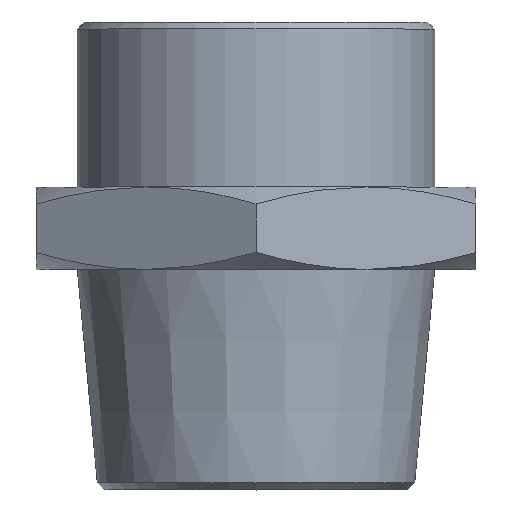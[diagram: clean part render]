
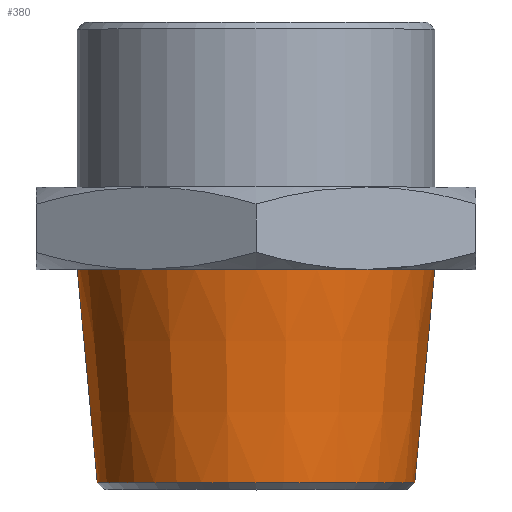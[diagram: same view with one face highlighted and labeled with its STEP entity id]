
A CAD part, top view. The second image highlights one B-rep face of the part: STEP entity #380.
In plain terms, the highlighted conical face has half-angle 5.356 degrees and reference radius 12.25 mm.
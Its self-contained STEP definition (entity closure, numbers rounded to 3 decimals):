
#54=CONICAL_SURFACE('',#435,12.25,0.093);
#71=FACE_OUTER_BOUND('',#99,.T.);
#99=EDGE_LOOP('',(#272,#273,#274,#275,#276));
#128=LINE('',#606,#139);
#139=VECTOR('',#500,12.25);
#150=CIRCLE('',#431,11.547);
#151=CIRCLE('',#432,11.547);
#153=CIRCLE('',#436,13.);
#172=VERTEX_POINT('',#595);
#173=VERTEX_POINT('',#596);
#175=VERTEX_POINT('',#604);
#207=EDGE_CURVE('',#172,#173,#150,.T.);
#208=EDGE_CURVE('',#173,#172,#151,.T.);
#211=EDGE_CURVE('',#175,#175,#153,.T.);
#212=EDGE_CURVE('',#175,#173,#128,.T.);
#272=ORIENTED_EDGE('',*,*,#211,.F.);
#273=ORIENTED_EDGE('',*,*,#212,.T.);
#274=ORIENTED_EDGE('',*,*,#207,.F.);
#275=ORIENTED_EDGE('',*,*,#208,.F.);
#276=ORIENTED_EDGE('',*,*,#212,.F.);
#380=ADVANCED_FACE('',(#71),#54,.T.);
#431=AXIS2_PLACEMENT_3D('',#597,#487,#488);
#432=AXIS2_PLACEMENT_3D('',#598,#489,#490);
#435=AXIS2_PLACEMENT_3D('',#603,#496,#497);
#436=AXIS2_PLACEMENT_3D('',#605,#498,#499);
#487=DIRECTION('center_axis',(0.,-1.,0.));
#488=DIRECTION('ref_axis',(-1.,0.,0.));
#489=DIRECTION('center_axis',(0.,-1.,0.));
#490=DIRECTION('ref_axis',(-1.,0.,0.));
#496=DIRECTION('center_axis',(0.,1.,0.));
#497=DIRECTION('ref_axis',(1.,0.,0.));
#498=DIRECTION('center_axis',(0.,1.,0.));
#499=DIRECTION('ref_axis',(1.,0.,0.));
#500=DIRECTION('',(0.093,-0.996,0.));
#595=CARTESIAN_POINT('',(11.547,-15.502,0.));
#596=CARTESIAN_POINT('',(-11.547,-15.502,0.));
#597=CARTESIAN_POINT('Origin',(0.,-15.502,0.));
#598=CARTESIAN_POINT('Origin',(0.,-15.502,0.));
#603=CARTESIAN_POINT('Origin',(0.,-8.,0.));
#604=CARTESIAN_POINT('',(-13.,0.,0.));
#605=CARTESIAN_POINT('Origin',(0.,0.,0.));
#606=CARTESIAN_POINT('',(-12.25,-8.,0.));
